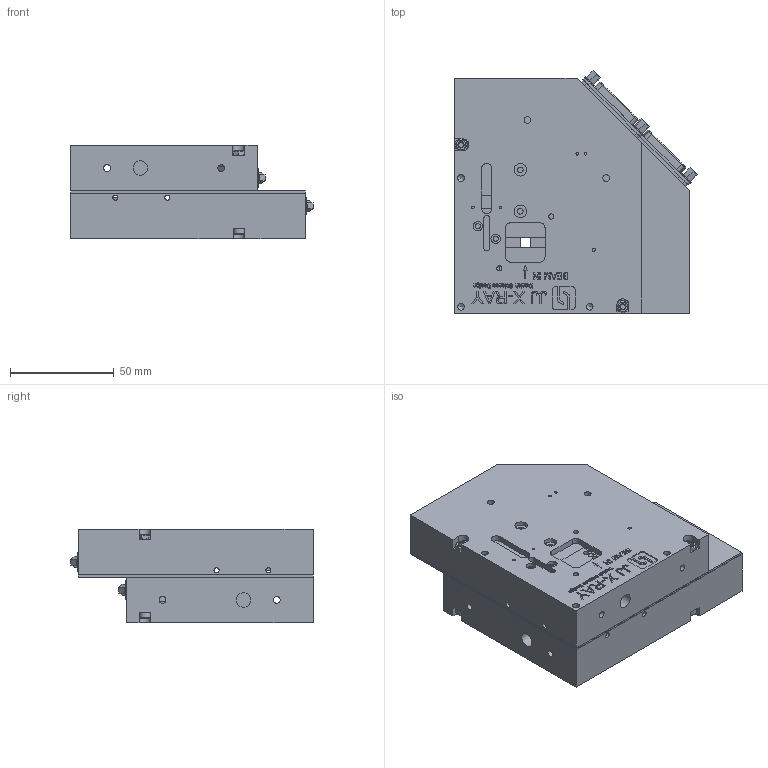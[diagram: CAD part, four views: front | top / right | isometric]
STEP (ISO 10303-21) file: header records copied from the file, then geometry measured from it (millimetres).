
FILE_DESCRIPTION((''),'2;1');
FILE_NAME('C:\WF\Designs\Slitter\ESRF luft\ESRF luft\stepfiler\AT-F7-Air Version 2.stp','2014-01-17T11:12:18',('Henning'),(''),'Autodesk Inventor 2013','Autodesk Inventor 2013','');
FILE_SCHEMA(('AUTOMOTIVE_DESIGN { 1 0 10303 214 1 1 1 1 }'));
Products named in the file (11): AT-F7-Air Slit for step; 042900a1 Not beam in; 042901a1nyt logo_u_beam_in; D-Connector screw; Dsub 15 Pin, 2 Row, Male; 042900a1 for step; 042901a1nyt logo; 042913a3; DIN EN ISO 4762 M3 x 30; ISO 4032 M3; 042911a4
Assembly tree (19 placements, depth 3):
  AT-F7-Air Slit for step
    042900a1 Not beam in
      042901a1nyt logo_u_beam_in
      D-Connector screw  x2
      Dsub 15 Pin, 2 Row, Male
    042900a1 for step
      042901a1nyt logo
      D-Connector screw  x2
      Dsub 15 Pin, 2 Row, Male
    042913a3
    DIN EN ISO 4762 M3 x 30  x2
    ISO 4032 M3  x2
    042911a4  x4
Bounding box: 116.81 x 116.99 x 45 mm (x, y, z)
Volume: 113873.8 mm3; surface area: 104015.1 mm2
Topology: 17 solids, 17 shells, 1751 faces, 4583 edges, 3000 vertices
Faces by surface type: plane 1051, bspline 382, cylinder 242, cone 34, sphere 30, torus 12
Full cylindrical faces by diameter (mm): 0.991 x30, 1.221 x8, 1.567 x2, 2.156 x4, 2.459 x14, 2.487 x4, 2.5 x16, 2.7 x4, 2.82 x4, 3 x2, 3.048 x4, 3.242 x14, 3.5 x6, 4.5 x4, 5.5 x2, 6 x4, 6.5 x4, 7 x2, 8 x4
Entity records: 45694 total; most frequent: CARTESIAN_POINT 13351, ORIENTED_EDGE 7094, DIRECTION 5233, EDGE_CURVE 3547, VERTEX_POINT 2406, VECTOR 2385, LINE 2385, EDGE_LOOP 1779
